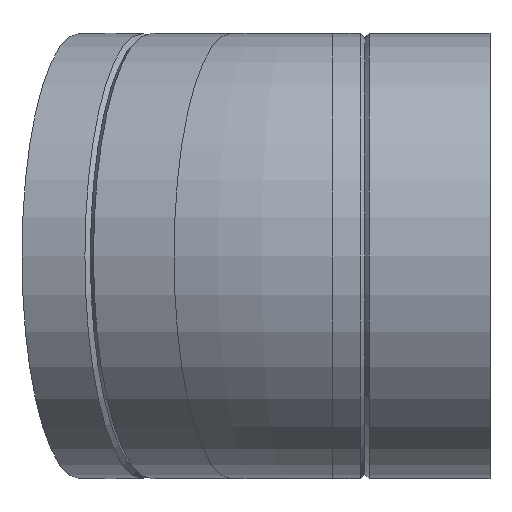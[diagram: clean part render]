
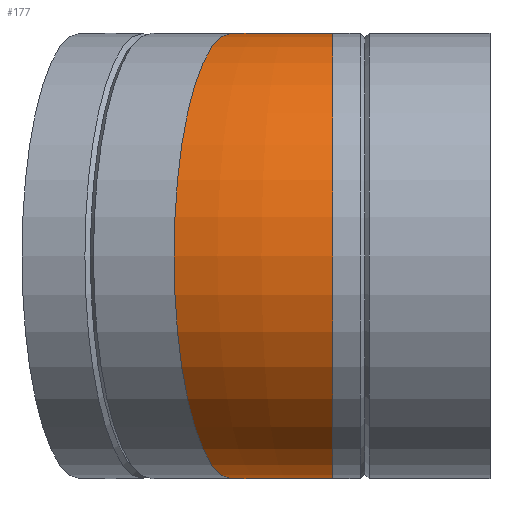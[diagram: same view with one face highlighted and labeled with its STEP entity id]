
A CAD part, left-side view. The second image highlights one B-rep face of the part: STEP entity #177.
In plain terms, the highlighted toroidal (fillet/blend) face has major radius 140 mm and minor radius 80 mm.
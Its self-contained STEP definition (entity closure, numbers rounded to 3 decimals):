
#15=TOROIDAL_SURFACE($,#207,140.,80.);
#32=FACE_BOUND($,#71,.T.);
#48=FACE_OUTER_BOUND($,#70,.T.);
#70=EDGE_LOOP($,(#140));
#71=EDGE_LOOP($,(#141));
#85=CIRCLE($,#197,80.);
#90=CIRCLE($,#206,80.);
#99=VERTEX_POINT($,#291);
#104=VERTEX_POINT($,#305);
#113=EDGE_CURVE($,#99,#99,#85,.T.);
#118=EDGE_CURVE($,#104,#104,#90,.T.);
#140=ORIENTED_EDGE($,*,*,#118,.T.);
#141=ORIENTED_EDGE($,*,*,#113,.F.);
#177=ADVANCED_FACE($,(#48,#32),#15,.T.);
#197=AXIS2_PLACEMENT_3D($,#292,#240,#241);
#206=AXIS2_PLACEMENT_3D($,#306,#258,#259);
#207=AXIS2_PLACEMENT_3D($,#307,#260,#261);
#240=DIRECTION('center_axis',(0.,-1.,0.));
#241=DIRECTION('ref_axis',(1.,0.,0.));
#258=DIRECTION('center_axis',(-0.259,-0.966,0.));
#259=DIRECTION('ref_axis',(0.966,-0.259,0.));
#260=DIRECTION('center_axis',(0.,0.,-1.));
#261=DIRECTION('ref_axis',(-1.,0.,0.));
#291=CARTESIAN_POINT('',(-80.,56.569,0.));
#292=CARTESIAN_POINT('Origin',(0.,56.569,0.));
#305=CARTESIAN_POINT('',(-72.504,113.509,0.));
#306=CARTESIAN_POINT('Origin',(4.77,92.803,0.));
#307=CARTESIAN_POINT('Origin',(140.,56.569,0.));
